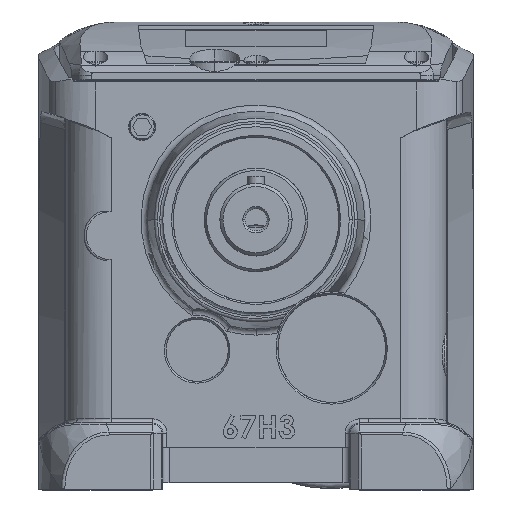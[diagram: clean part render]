
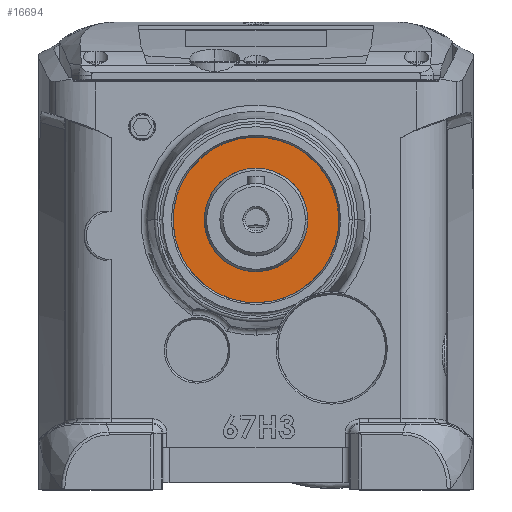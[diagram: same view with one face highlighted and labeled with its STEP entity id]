
A CAD part, top view. The second image highlights one B-rep face of the part: STEP entity #16694.
In plain terms, the highlighted planar face has unit normal (0, 0, 1).
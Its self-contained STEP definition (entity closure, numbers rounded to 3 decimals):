
#8623 = DIRECTION ( 'NONE',  ( -0.736, -0.677, 0. ) ) ;
#8628 = PLANE ( 'NONE',  #26874 ) ;
#8629 = CARTESIAN_POINT ( 'NONE',  ( -27.061, 164.457, 41.5 ) ) ;
#8630 = DIRECTION ( 'NONE',  ( 0., 0., -1. ) ) ;
#16694 = ADVANCED_FACE ( 'NONE', ( #33962, #33987 ), #8628, .F. ) ;
#20849 = VERTEX_POINT ( 'NONE', #28784 ) ;
#20901 = VERTEX_POINT ( 'NONE', #28698 ) ;
#21101 = VERTEX_POINT ( 'NONE', #29728 ) ;
#21121 = VERTEX_POINT ( 'NONE', #26696 ) ;
#26176 = DIRECTION ( 'NONE',  ( 0.736, 0.677, 0. ) ) ;
#26177 = DIRECTION ( 'NONE',  ( 0., 0., 1. ) ) ;
#26179 = CARTESIAN_POINT ( 'NONE',  ( 0., 135., 41.5 ) ) ;
#26180 = DIRECTION ( 'NONE',  ( 0., 0., 1. ) ) ;
#26182 = DIRECTION ( 'NONE',  ( 0.736, 0.677, 0. ) ) ;
#26185 = DIRECTION ( 'NONE',  ( 0., 0., 1. ) ) ;
#26187 = CARTESIAN_POINT ( 'NONE',  ( 0., 135., 41.5 ) ) ;
#26196 = DIRECTION ( 'NONE',  ( 0.736, 0.677, 0. ) ) ;
#26197 = CARTESIAN_POINT ( 'NONE',  ( 0., 135., 41.5 ) ) ;
#26225 = CARTESIAN_POINT ( 'NONE',  ( 0., 135., 41.5 ) ) ;
#26229 = DIRECTION ( 'NONE',  ( 0.736, 0.677, 0. ) ) ;
#26230 = DIRECTION ( 'NONE',  ( 0., 0., 1. ) ) ;
#26696 = CARTESIAN_POINT ( 'NONE',  ( 18.41, 151.913, 41.5 ) ) ;
#26874 = AXIS2_PLACEMENT_3D ( 'NONE', #8629, #8630, #8623 ) ;
#27790 = EDGE_LOOP ( 'NONE', ( #43613, #43618 ) ) ;
#27804 = EDGE_LOOP ( 'NONE', ( #43555, #43436 ) ) ;
#28404 = EDGE_CURVE ( 'NONE', #20901, #21121, #32603, .T. ) ;
#28405 = EDGE_CURVE ( 'NONE', #20849, #21101, #32607, .T. ) ;
#28406 = EDGE_CURVE ( 'NONE', #21121, #20901, #32611, .T. ) ;
#28408 = EDGE_CURVE ( 'NONE', #21101, #20849, #32615, .T. ) ;
#28698 = CARTESIAN_POINT ( 'NONE',  ( -18.41, 118.087, 41.5 ) ) ;
#28784 = CARTESIAN_POINT ( 'NONE',  ( 29.457, 162.061, 41.5 ) ) ;
#29728 = CARTESIAN_POINT ( 'NONE',  ( -29.457, 107.939, 41.5 ) ) ;
#32603 = CIRCLE ( 'NONE', #32605, 25. ) ;
#32605 = AXIS2_PLACEMENT_3D ( 'NONE', #26197, #26185, #26196 ) ;
#32607 = CIRCLE ( 'NONE', #32609, 40. ) ;
#32609 = AXIS2_PLACEMENT_3D ( 'NONE', #26179, #26180, #26182 ) ;
#32611 = CIRCLE ( 'NONE', #32612, 25. ) ;
#32612 = AXIS2_PLACEMENT_3D ( 'NONE', #26187, #26230, #26229 ) ;
#32615 = CIRCLE ( 'NONE', #32618, 40. ) ;
#32618 = AXIS2_PLACEMENT_3D ( 'NONE', #26225, #26177, #26176 ) ;
#33962 = FACE_BOUND ( 'NONE', #27804, .T. ) ;
#33987 = FACE_OUTER_BOUND ( 'NONE', #27790, .T. ) ;
#43436 = ORIENTED_EDGE ( 'NONE', *, *, #28404, .F. ) ;
#43555 = ORIENTED_EDGE ( 'NONE', *, *, #28406, .F. ) ;
#43613 = ORIENTED_EDGE ( 'NONE', *, *, #28405, .T. ) ;
#43618 = ORIENTED_EDGE ( 'NONE', *, *, #28408, .T. ) ;
